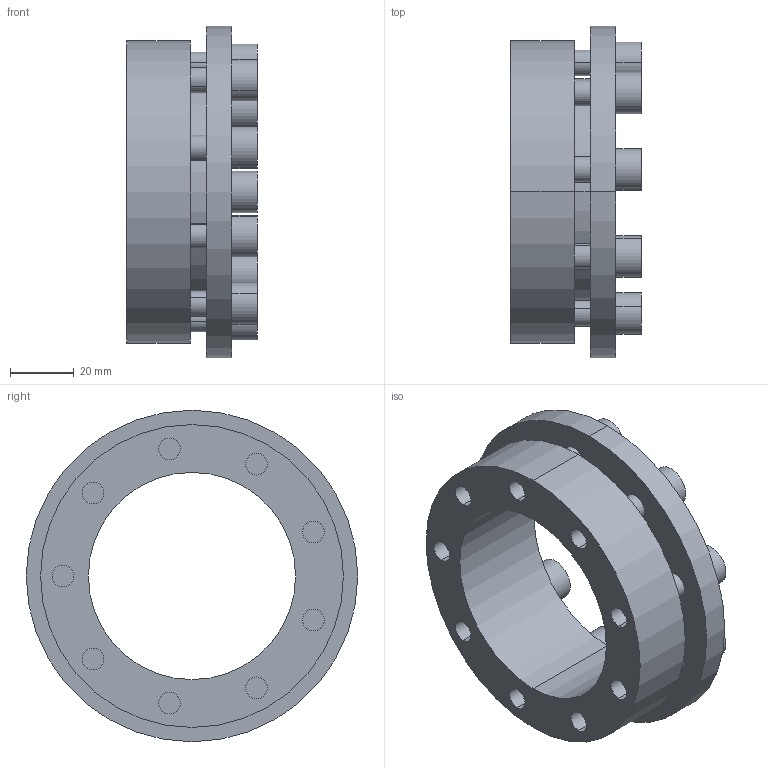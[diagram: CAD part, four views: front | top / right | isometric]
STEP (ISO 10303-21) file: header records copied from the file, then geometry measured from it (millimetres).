
FILE_DESCRIPTION (( 'STEP AP203' ), '1' );
FILE_NAME ('SES-65.step', '2009-09-29T16:46:40', ( 'USER' ), ( 'HOME' ), 'SwSTEP 2.0', 'SolidWorks 2007', '' );
FILE_SCHEMA (( 'CONFIG_CONTROL_DESIGN' ));
Length unit declared in the file: millimetre
Products named in the file (1): SES-65
Bounding box: 41 x 104 x 104 mm (x, y, z)
Volume: 132525.7 mm3; surface area: 49161.3 mm2
Topology: 10 solids, 10 shells, 174 faces, 402 edges, 268 vertices
Faces by surface type: plane 94, cylinder 80
Entity records: 5121 total; most frequent: DIRECTION 912, CARTESIAN_POINT 845, ORIENTED_EDGE 804, EDGE_CURVE 402, AXIS2_PLACEMENT_3D 335, VERTEX_POINT 268, VECTOR 242, LINE 242
